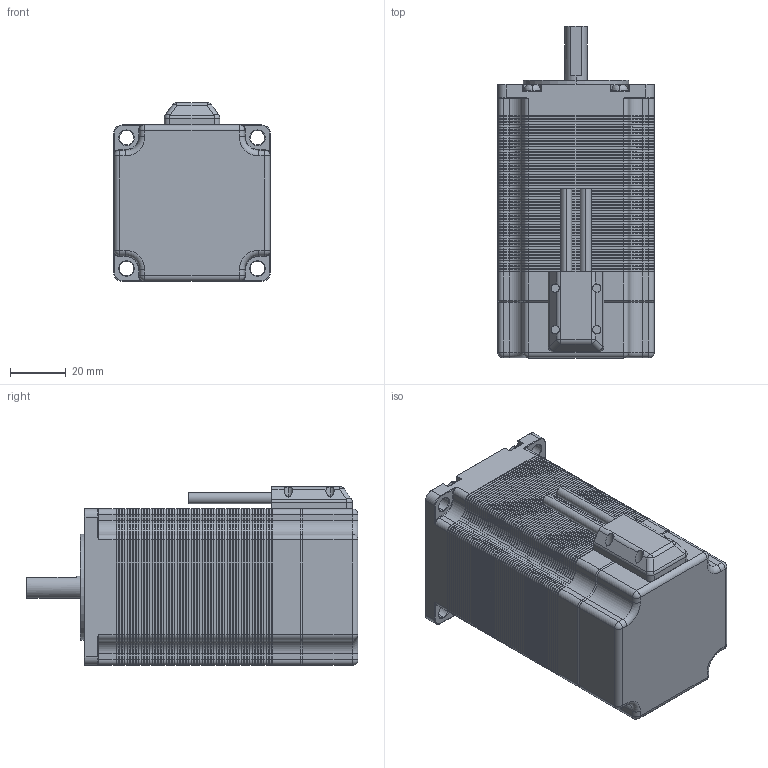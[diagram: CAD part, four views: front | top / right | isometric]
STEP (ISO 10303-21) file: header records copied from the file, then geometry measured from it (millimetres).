
FILE_DESCRIPTION (( 'STEP AP214' ), '1' );
FILE_NAME ('Nema 23 Stepper Motor length_80_mm_8mm_ENC.STEP', '2020-11-11T16:01:08', ( 'Moofasta' ), ( '' ), 'SwSTEP 2.0', 'SolidWorks 2020', '' );
FILE_SCHEMA (( 'AUTOMOTIVE_DESIGN' ));
Length unit declared in the file: millimetre
Products named in the file (1): Nema 23 Stepper Motor length_80_mm_8mm_ENC
Bounding box: 56.3 x 119.5 x 64.3 mm (x, y, z)
Volume: 288153.3 mm3; surface area: 354938.8 mm2
Topology: 64 solids, 65 shells, 4649 faces, 10601 edges, 6065 vertices
Faces by surface type: plane 2309, cone 1372, cylinder 846, torus 94, sphere 20, bspline 8
Entity records: 175685 total; most frequent: DIRECTION 22973, CARTESIAN_POINT 21864, ORIENTED_EDGE 21150, EDGE_CURVE 10575, AXIS2_PLACEMENT_3D 7846, LINE 7281, VECTOR 7281, VERTEX_POINT 6065
